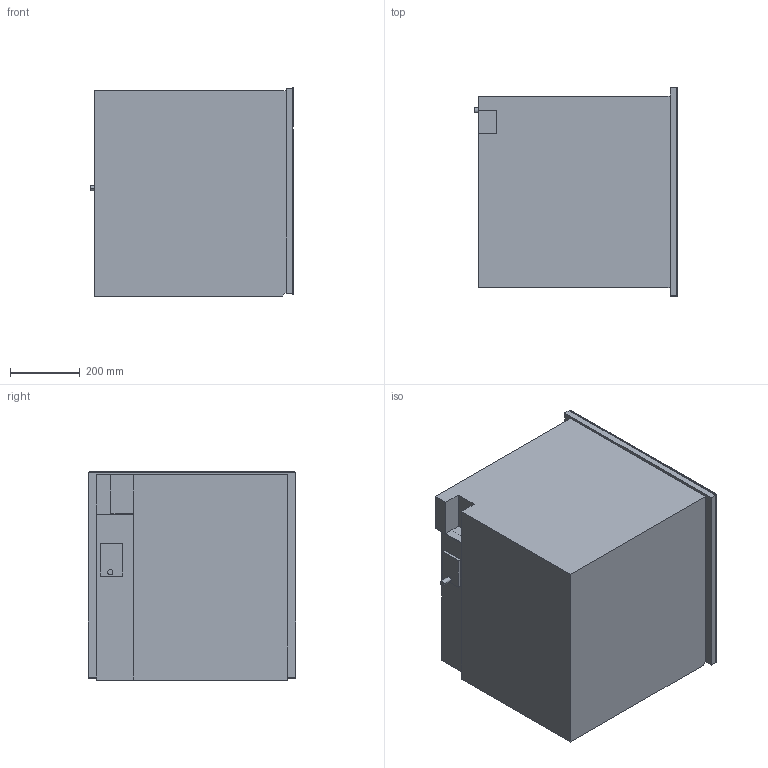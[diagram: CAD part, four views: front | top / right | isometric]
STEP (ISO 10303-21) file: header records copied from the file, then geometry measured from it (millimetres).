
FILE_DESCRIPTION(('CATIA V5 STEP','CAx-IF Rec.Pracs.--- Model Styling and Organization---1.2---2011-12-15'),'2;1');
FILE_NAME('d:\opendxmdata\jobs\0171455\0018_001_out\Simp_DGC6860X_GRGR.stp','2017-12-12T09:32:03+00:00',('none'),('none'),'Version 5-6 Release 2012','CATIA V5 STEP AP214','none');
FILE_SCHEMA(('AUTOMOTIVE_DESIGN { 1 0 10303 214 1 1 1 1 }'));
Length unit declared in the file: millimetre
Products named in the file (1): Simp_DGC6860X_GRGR
Bounding box: 583.04 x 595 x 596.03 mm (x, y, z)
Volume: 112712289.4 mm3; surface area: 4507751.1 mm2
Topology: 31 solids, 31 shells, 333 faces, 733 edges, 454 vertices
Faces by surface type: cylinder 134, plane 133, torus 52, bspline 12, sphere 2
Entity records: 9194 total; most frequent: CARTESIAN_POINT 2369, ORIENTED_EDGE 1438, DIRECTION 1091, EDGE_CURVE 719, AXIS2_PLACEMENT_3D 496, VERTEX_POINT 433, VECTOR 395, LINE 395
